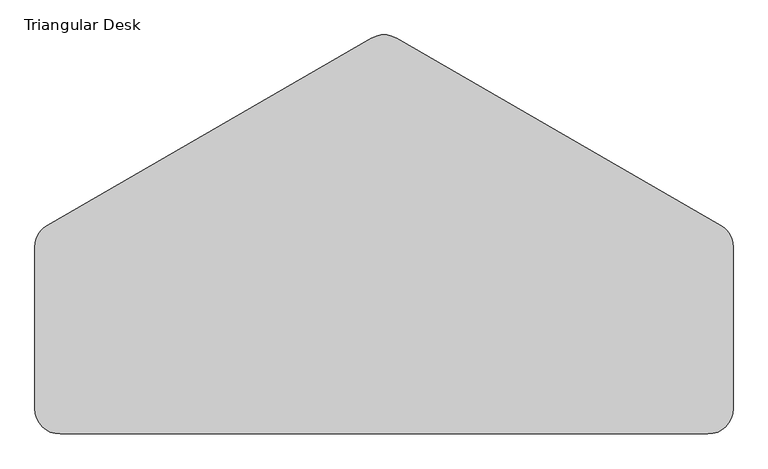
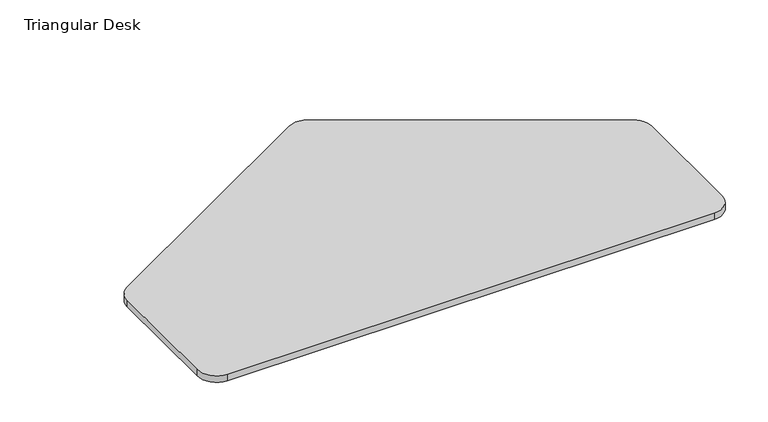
"""IFC4 building model written with IfcOpenShell, lengths in millimetres: furniture geometry, DBLTD_Sixteen3_PrivacyScreens_Artus_Desk : Triangular Desk."""

from ifc_helpers import new_model, si_unit, point, frame, frame_2d, origin, place, context, project, spatial, polyline, circle_curve, trimmed, segment, composite_curve, outline, extrude, source, transform, mapped, element, save


def triangular_desk_e4d0531c(model_context):
    return source(origin(), model_context, "Body", "SweptSolid", [
        extrude(outline(composite_curve([segment(polyline([(-692.820323, 472.5), (-692.820323, 793.6324865)]), True, "CONTINUOUS"), segment(trimmed(circle_curve(frame_2d((-642.820323, 793.6324865)), 50.0), [point((-692.820323, 793.6324865))], [point((-667.820323, 836.9337567))], False, "CARTESIAN"), True, "CONTINUOUS"), segment(polyline([(-667.820323, 836.9337567), (-25.0, 1208.0662433)]), True, "CONTINUOUS"), segment(trimmed(circle_curve(frame_2d((0.0, 1164.7649731)), 50.0), [point((-25.0, 1208.0662433))], [point((25.0, 1208.0662433))], False, "CARTESIAN"), True, "CONTINUOUS"), segment(polyline([(25.0, 1208.0662433), (667.820323, 836.9337567)]), True, "CONTINUOUS"), segment(trimmed(circle_curve(frame_2d((642.820323, 793.6324865)), 50.0), [point((667.820323, 836.9337567))], [point((692.820323, 793.6324865))], False, "CARTESIAN"), True, "CONTINUOUS"), segment(polyline([(692.820323, 793.6324865), (692.820323, 472.5)]), True, "CONTINUOUS"), segment(trimmed(circle_curve(frame_2d((642.820323, 472.5)), 50.0), [point((692.820323, 472.5))], [point((642.820323, 422.5))], False, "CARTESIAN"), True, "CONTINUOUS"), segment(polyline([(642.820323, 422.5), (-642.820323, 422.5)]), True, "CONTINUOUS"), segment(trimmed(circle_curve(frame_2d((-642.820323, 472.5)), 50.0), [point((-642.820323, 422.5))], [point((-692.820323, 472.5))], False, "CARTESIAN"), True, "CONTINUOUS")], self_intersect=False)), frame((0.0, 0.0, 732.0), z_axis=(0.0, 0.0, 1.0), x_axis=(1.0, 0.0, 0.0)), (0.0, 0.0, 1.0), 18.0),
    ])


if __name__ == "__main__":
    model = new_model("IFC4")
    model_context = context("Model", 3, world=origin())
    ifc_project = project(units=[si_unit("LENGTHUNIT", "METRE", prefix="MILLI")], contexts=[model_context])
    site = spatial("IfcSite", under=ifc_project)
    building = spatial("IfcBuilding", under=site)
    placement = place(None, origin())
    triangular_desk_shape = triangular_desk_e4d0531c(model_context)
    element("IfcFurniture", 1, ObjectType="DBLTD_Sixteen3_PrivacyScreens_Artus_Desk : Triangular Desk", at=placement, inside=building, context=model_context, shape_type="MappedRepresentation", body=[
        mapped(triangular_desk_shape, transform((0.0, 0.0, 0.0), x_axis=(1.0, 0.0, 0.0), y_axis=(0.0, 1.0, 0.0), z_axis=(0.0, 0.0, 1.0))),
    ])
    save(model, "model.ifc")
